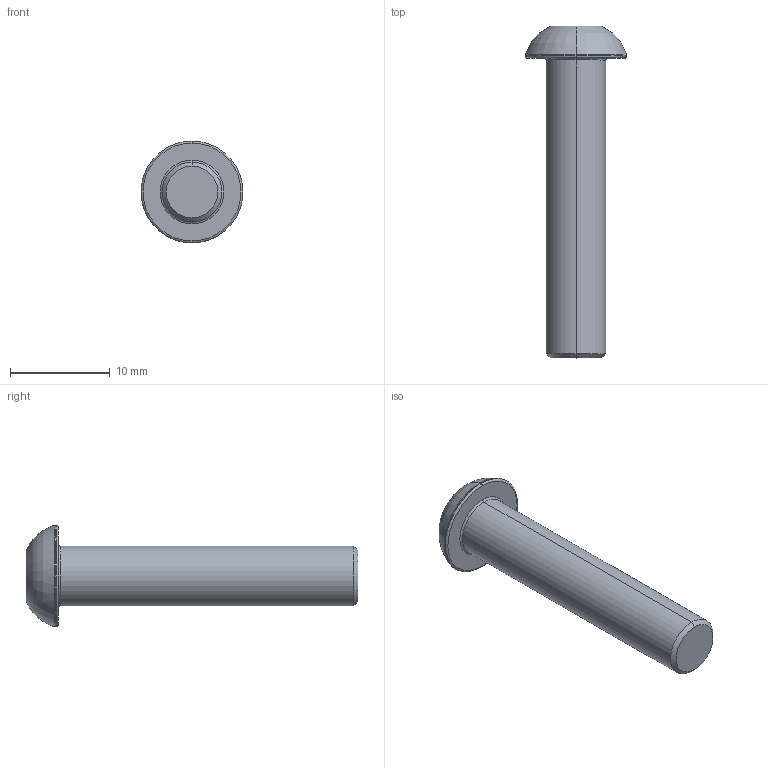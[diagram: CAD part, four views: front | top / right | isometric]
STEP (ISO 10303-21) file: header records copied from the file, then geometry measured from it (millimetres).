
FILE_DESCRIPTION (( 'STEP AP203' ), '1' );
FILE_NAME ('LGDD-304-M6x30.STEP', '2026-08-08T04:35:31', ( '' ), ( '' ), 'SwSTEP 2.0', 'SolidWorks 2020', '' );
FILE_SCHEMA (( 'CONFIG_CONTROL_DESIGN' ));
Length unit declared in the file: millimetre
Products named in the file (1): LGDD-304-M6x30
Bounding box: 10.2 x 33.2 x 10.2 mm (x, y, z)
Volume: 997.7 mm3; surface area: 807.2 mm2
Topology: 1 solids, 1 shells, 31 faces, 59 edges, 32 vertices
Faces by surface type: plane 10, cone 9, torus 8, cylinder 4
Entity records: 860 total; most frequent: CARTESIAN_POINT 150, DIRECTION 149, ORIENTED_EDGE 118, AXIS2_PLACEMENT_3D 65, EDGE_CURVE 59, CIRCLE 33, EDGE_LOOP 33, VERTEX_POINT 32
